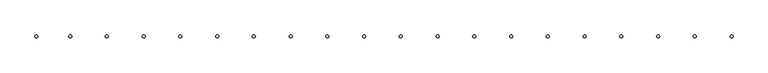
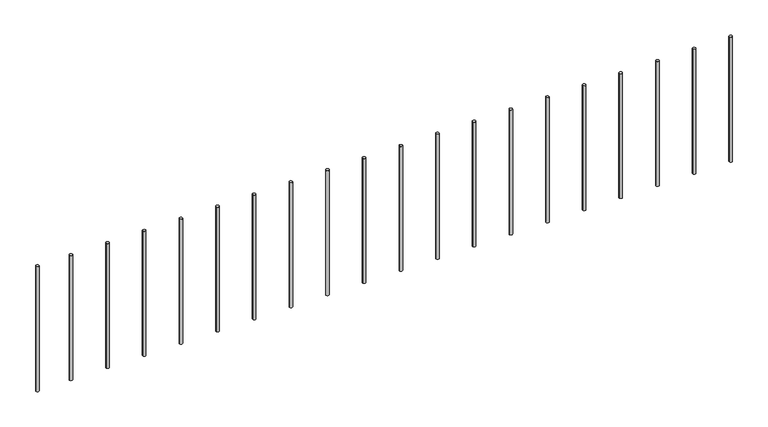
"""IFC4 building model written with IfcOpenShell, lengths in millimetres: beam geometry, Attentes HA 10 : Attentes HA 10."""

from ifc_helpers import new_model, si_unit, point, frame, frame_2d, origin, place, context, project, spatial, circle_curve, trimmed, segment, composite_curve, outline, extrude, source, transform, mapped, element, save


def beam_9b0c44ac(model_context):
    return source(origin(), model_context, "Body", "SweptSolid", [
        extrude(outline(composite_curve([segment(trimmed(circle_curve(frame_2d((2256.7115733, 0.0)), 10.0), [point((2266.7115733, 0.0))], [point((2246.7115733, 0.0))], False, "CARTESIAN"), True, "CONTINUOUS"), segment(trimmed(circle_curve(frame_2d((2256.7115733, 0.0)), 10.0), [point((2246.7115733, 0.0))], [point((2266.7115733, 0.0))], False, "CARTESIAN"), True, "CONTINUOUS")], self_intersect=False)), frame((0.0, 0.0, 904.3181378), z_axis=(0.0, 0.0, 1.0), x_axis=(1.0, 0.0, 0.0)), (0.0, 0.0, 1.0), 863.4502723),
        extrude(outline(composite_curve([segment(trimmed(circle_curve(frame_2d((2016.7115733, 0.0)), 10.0), [point((2026.7115733, 0.0))], [point((2006.7115733, 0.0))], False, "CARTESIAN"), True, "CONTINUOUS"), segment(trimmed(circle_curve(frame_2d((2016.7115733, 0.0)), 10.0), [point((2006.7115733, 0.0))], [point((2026.7115733, 0.0))], False, "CARTESIAN"), True, "CONTINUOUS")], self_intersect=False)), frame((0.0, 0.0, 904.3181378), z_axis=(0.0, 0.0, 1.0), x_axis=(1.0, 0.0, 0.0)), (0.0, 0.0, 1.0), 863.4502723),
        extrude(outline(composite_curve([segment(trimmed(circle_curve(frame_2d((1776.7115733, 0.0)), 10.0), [point((1786.7115733, 0.0))], [point((1766.7115733, 0.0))], False, "CARTESIAN"), True, "CONTINUOUS"), segment(trimmed(circle_curve(frame_2d((1776.7115733, 0.0)), 10.0), [point((1766.7115733, 0.0))], [point((1786.7115733, 0.0))], False, "CARTESIAN"), True, "CONTINUOUS")], self_intersect=False)), frame((0.0, 0.0, 904.3181378), z_axis=(0.0, 0.0, 1.0), x_axis=(1.0, 0.0, 0.0)), (0.0, 0.0, 1.0), 863.4502723),
        extrude(outline(composite_curve([segment(trimmed(circle_curve(frame_2d((1536.7115733, 0.0)), 10.0), [point((1546.7115733, 0.0))], [point((1526.7115733, 0.0))], False, "CARTESIAN"), True, "CONTINUOUS"), segment(trimmed(circle_curve(frame_2d((1536.7115733, 0.0)), 10.0), [point((1526.7115733, 0.0))], [point((1546.7115733, 0.0))], False, "CARTESIAN"), True, "CONTINUOUS")], self_intersect=False)), frame((0.0, 0.0, 904.3181378), z_axis=(0.0, 0.0, 1.0), x_axis=(1.0, 0.0, 0.0)), (0.0, 0.0, 1.0), 863.4502723),
        extrude(outline(composite_curve([segment(trimmed(circle_curve(frame_2d((1296.7115733, 0.0)), 10.0), [point((1306.7115733, 0.0))], [point((1286.7115733, 0.0))], False, "CARTESIAN"), True, "CONTINUOUS"), segment(trimmed(circle_curve(frame_2d((1296.7115733, 0.0)), 10.0), [point((1286.7115733, 0.0))], [point((1306.7115733, 0.0))], False, "CARTESIAN"), True, "CONTINUOUS")], self_intersect=False)), frame((0.0, 0.0, 904.3181378), z_axis=(0.0, 0.0, 1.0), x_axis=(1.0, 0.0, 0.0)), (0.0, 0.0, 1.0), 863.4502723),
        extrude(outline(composite_curve([segment(trimmed(circle_curve(frame_2d((1056.7115733, 0.0)), 10.0), [point((1066.7115733, 0.0))], [point((1046.7115733, 0.0))], False, "CARTESIAN"), True, "CONTINUOUS"), segment(trimmed(circle_curve(frame_2d((1056.7115733, 0.0)), 10.0), [point((1046.7115733, 0.0))], [point((1066.7115733, 0.0))], False, "CARTESIAN"), True, "CONTINUOUS")], self_intersect=False)), frame((0.0, 0.0, 904.3181378), z_axis=(0.0, 0.0, 1.0), x_axis=(1.0, 0.0, 0.0)), (0.0, 0.0, 1.0), 863.4502723),
        extrude(outline(composite_curve([segment(trimmed(circle_curve(frame_2d((816.7115733, 0.0)), 10.0), [point((826.7115733, 0.0))], [point((806.7115733, 0.0))], False, "CARTESIAN"), True, "CONTINUOUS"), segment(trimmed(circle_curve(frame_2d((816.7115733, 0.0)), 10.0), [point((806.7115733, 0.0))], [point((826.7115733, 0.0))], False, "CARTESIAN"), True, "CONTINUOUS")], self_intersect=False)), frame((0.0, 0.0, 904.3181378), z_axis=(0.0, 0.0, 1.0), x_axis=(1.0, 0.0, 0.0)), (0.0, 0.0, 1.0), 863.4502723),
        extrude(outline(composite_curve([segment(trimmed(circle_curve(frame_2d((576.7115733, 0.0)), 10.0), [point((586.7115733, 0.0))], [point((566.7115733, 0.0))], False, "CARTESIAN"), True, "CONTINUOUS"), segment(trimmed(circle_curve(frame_2d((576.7115733, 0.0)), 10.0), [point((566.7115733, 0.0))], [point((586.7115733, 0.0))], False, "CARTESIAN"), True, "CONTINUOUS")], self_intersect=False)), frame((0.0, 0.0, 904.3181378), z_axis=(0.0, 0.0, 1.0), x_axis=(1.0, 0.0, 0.0)), (0.0, 0.0, 1.0), 863.4502723),
        extrude(outline(composite_curve([segment(trimmed(circle_curve(frame_2d((336.7115733, 0.0)), 10.0), [point((346.7115733, 0.0))], [point((326.7115733, 0.0))], False, "CARTESIAN"), True, "CONTINUOUS"), segment(trimmed(circle_curve(frame_2d((336.7115733, 0.0)), 10.0), [point((326.7115733, 0.0))], [point((346.7115733, 0.0))], False, "CARTESIAN"), True, "CONTINUOUS")], self_intersect=False)), frame((0.0, 0.0, 904.3181378), z_axis=(0.0, 0.0, 1.0), x_axis=(1.0, 0.0, 0.0)), (0.0, 0.0, 1.0), 863.4502723),
        extrude(outline(composite_curve([segment(trimmed(circle_curve(frame_2d((96.7115733, 0.0)), 10.0), [point((106.7115733, 0.0))], [point((86.7115733, 0.0))], False, "CARTESIAN"), True, "CONTINUOUS"), segment(trimmed(circle_curve(frame_2d((96.7115733, 0.0)), 10.0), [point((86.7115733, 0.0))], [point((106.7115733, 0.0))], False, "CARTESIAN"), True, "CONTINUOUS")], self_intersect=False)), frame((0.0, 0.0, 904.3181378), z_axis=(0.0, 0.0, 1.0), x_axis=(1.0, 0.0, 0.0)), (0.0, 0.0, 1.0), 863.4502723),
        extrude(outline(composite_curve([segment(trimmed(circle_curve(frame_2d((-143.2884267, 0.0)), 10.0), [point((-133.2884267, 0.0))], [point((-153.2884267, 0.0))], False, "CARTESIAN"), True, "CONTINUOUS"), segment(trimmed(circle_curve(frame_2d((-143.2884267, 0.0)), 10.0), [point((-153.2884267, 0.0))], [point((-133.2884267, 0.0))], False, "CARTESIAN"), True, "CONTINUOUS")], self_intersect=False)), frame((0.0, 0.0, 904.3181378), z_axis=(0.0, 0.0, 1.0), x_axis=(1.0, 0.0, 0.0)), (0.0, 0.0, 1.0), 863.4502723),
        extrude(outline(composite_curve([segment(trimmed(circle_curve(frame_2d((-383.2884267, 0.0)), 10.0), [point((-373.2884267, 0.0))], [point((-393.2884267, 0.0))], False, "CARTESIAN"), True, "CONTINUOUS"), segment(trimmed(circle_curve(frame_2d((-383.2884267, 0.0)), 10.0), [point((-393.2884267, 0.0))], [point((-373.2884267, 0.0))], False, "CARTESIAN"), True, "CONTINUOUS")], self_intersect=False)), frame((0.0, 0.0, 904.3181378), z_axis=(0.0, 0.0, 1.0), x_axis=(1.0, 0.0, 0.0)), (0.0, 0.0, 1.0), 863.4502723),
        extrude(outline(composite_curve([segment(trimmed(circle_curve(frame_2d((-623.2884267, 0.0)), 10.0), [point((-613.2884267, 0.0))], [point((-633.2884267, 0.0))], False, "CARTESIAN"), True, "CONTINUOUS"), segment(trimmed(circle_curve(frame_2d((-623.2884267, 0.0)), 10.0), [point((-633.2884267, 0.0))], [point((-613.2884267, 0.0))], False, "CARTESIAN"), True, "CONTINUOUS")], self_intersect=False)), frame((0.0, 0.0, 904.3181378), z_axis=(0.0, 0.0, 1.0), x_axis=(1.0, 0.0, 0.0)), (0.0, 0.0, 1.0), 863.4502723),
        extrude(outline(composite_curve([segment(trimmed(circle_curve(frame_2d((-863.2884267, 0.0)), 10.0), [point((-853.2884267, 0.0))], [point((-873.2884267, 0.0))], False, "CARTESIAN"), True, "CONTINUOUS"), segment(trimmed(circle_curve(frame_2d((-863.2884267, 0.0)), 10.0), [point((-873.2884267, 0.0))], [point((-853.2884267, 0.0))], False, "CARTESIAN"), True, "CONTINUOUS")], self_intersect=False)), frame((0.0, 0.0, 904.3181378), z_axis=(0.0, 0.0, 1.0), x_axis=(1.0, 0.0, 0.0)), (0.0, 0.0, 1.0), 863.4502723),
        extrude(outline(composite_curve([segment(trimmed(circle_curve(frame_2d((-1103.2884267, 0.0)), 10.0), [point((-1093.2884267, 0.0))], [point((-1113.2884267, 0.0))], False, "CARTESIAN"), True, "CONTINUOUS"), segment(trimmed(circle_curve(frame_2d((-1103.2884267, 0.0)), 10.0), [point((-1113.2884267, 0.0))], [point((-1093.2884267, 0.0))], False, "CARTESIAN"), True, "CONTINUOUS")], self_intersect=False)), frame((0.0, 0.0, 904.3181378), z_axis=(0.0, 0.0, 1.0), x_axis=(1.0, 0.0, 0.0)), (0.0, 0.0, 1.0), 863.4502723),
        extrude(outline(composite_curve([segment(trimmed(circle_curve(frame_2d((-1343.2884267, 0.0)), 10.0), [point((-1333.2884267, 0.0))], [point((-1353.2884267, 0.0))], False, "CARTESIAN"), True, "CONTINUOUS"), segment(trimmed(circle_curve(frame_2d((-1343.2884267, 0.0)), 10.0), [point((-1353.2884267, 0.0))], [point((-1333.2884267, 0.0))], False, "CARTESIAN"), True, "CONTINUOUS")], self_intersect=False)), frame((0.0, 0.0, 904.3181378), z_axis=(0.0, 0.0, 1.0), x_axis=(1.0, 0.0, 0.0)), (0.0, 0.0, 1.0), 863.4502723),
        extrude(outline(composite_curve([segment(trimmed(circle_curve(frame_2d((-1583.2884267, 0.0)), 10.0), [point((-1573.2884267, 0.0))], [point((-1593.2884267, 0.0))], False, "CARTESIAN"), True, "CONTINUOUS"), segment(trimmed(circle_curve(frame_2d((-1583.2884267, 0.0)), 10.0), [point((-1593.2884267, 0.0))], [point((-1573.2884267, 0.0))], False, "CARTESIAN"), True, "CONTINUOUS")], self_intersect=False)), frame((0.0, 0.0, 904.3181378), z_axis=(0.0, 0.0, 1.0), x_axis=(1.0, 0.0, 0.0)), (0.0, 0.0, 1.0), 863.4502723),
        extrude(outline(composite_curve([segment(trimmed(circle_curve(frame_2d((-1823.2884267, 0.0)), 10.0), [point((-1813.2884267, 0.0))], [point((-1833.2884267, 0.0))], False, "CARTESIAN"), True, "CONTINUOUS"), segment(trimmed(circle_curve(frame_2d((-1823.2884267, 0.0)), 10.0), [point((-1833.2884267, 0.0))], [point((-1813.2884267, 0.0))], False, "CARTESIAN"), True, "CONTINUOUS")], self_intersect=False)), frame((0.0, 0.0, 904.3181378), z_axis=(0.0, 0.0, 1.0), x_axis=(1.0, 0.0, 0.0)), (0.0, 0.0, 1.0), 863.4502723),
        extrude(outline(composite_curve([segment(trimmed(circle_curve(frame_2d((-2063.2884267, 0.0)), 10.0), [point((-2053.2884267, 0.0))], [point((-2073.2884267, 0.0))], False, "CARTESIAN"), True, "CONTINUOUS"), segment(trimmed(circle_curve(frame_2d((-2063.2884267, 0.0)), 10.0), [point((-2073.2884267, 0.0))], [point((-2053.2884267, 0.0))], False, "CARTESIAN"), True, "CONTINUOUS")], self_intersect=False)), frame((0.0, 0.0, 904.3181378), z_axis=(0.0, 0.0, 1.0), x_axis=(1.0, 0.0, 0.0)), (0.0, 0.0, 1.0), 863.4502723),
        extrude(outline(composite_curve([segment(trimmed(circle_curve(frame_2d((-2283.2884267, 0.0)), 10.0), [point((-2273.2884267, 0.0))], [point((-2293.2884267, 0.0))], False, "CARTESIAN"), True, "CONTINUOUS"), segment(trimmed(circle_curve(frame_2d((-2283.2884267, 0.0)), 10.0), [point((-2293.2884267, 0.0))], [point((-2273.2884267, 0.0))], False, "CARTESIAN"), True, "CONTINUOUS")], self_intersect=False)), frame((0.0, 0.0, 904.3181378), z_axis=(0.0, 0.0, 1.0), x_axis=(1.0, 0.0, 0.0)), (0.0, 0.0, 1.0), 863.4502723),
    ])


if __name__ == "__main__":
    model = new_model("IFC4")
    model_context = context("Model", 3, world=origin())
    ifc_project = project(units=[si_unit("LENGTHUNIT", "METRE", prefix="MILLI")], contexts=[model_context])
    site = spatial("IfcSite", under=ifc_project)
    building = spatial("IfcBuilding", under=site)
    placement = place(None, origin())
    beam_shape = beam_9b0c44ac(model_context)
    element("IfcBeam", 1, ObjectType="Attentes HA 10 : Attentes HA 10", at=placement, inside=building, context=model_context, shape_type="MappedRepresentation", body=[
        mapped(beam_shape, transform((0.0, 0.0, 0.0), x_axis=(1.0, 0.0, 0.0), y_axis=(0.0, 1.0, 0.0), z_axis=(0.0, 0.0, 1.0))),
    ])
    save(model, "model.ifc")
